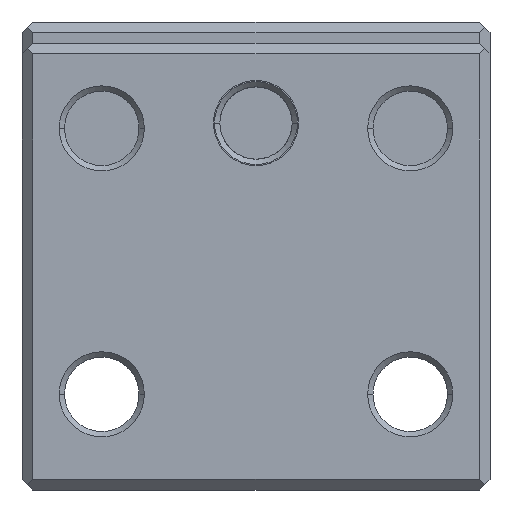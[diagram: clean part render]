
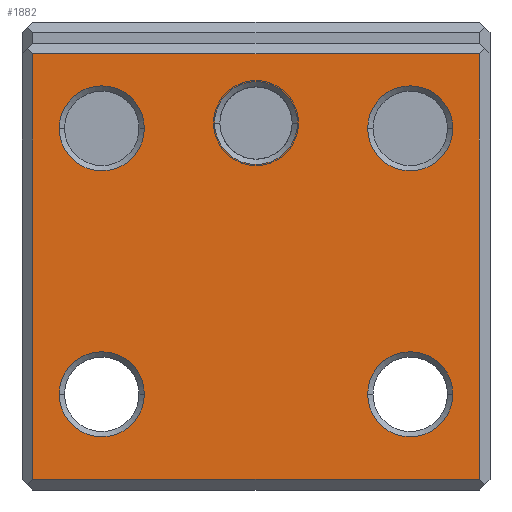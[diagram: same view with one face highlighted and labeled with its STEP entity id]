
A CAD part, front view. The second image highlights one B-rep face of the part: STEP entity #1882.
In plain terms, the highlighted planar face has unit normal (0, -1, 0).
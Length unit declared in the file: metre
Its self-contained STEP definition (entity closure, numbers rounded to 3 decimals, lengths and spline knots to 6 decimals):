
#1=CARTESIAN_POINT('',(-0.0145,0.,-0.012));
#2=DIRECTION('',(0.,1.,0.));
#3=DIRECTION('',(-1.,0.,0.));
#4=AXIS2_PLACEMENT_3D('',#1,#2,#3);
#6=CARTESIAN_POINT('',(-0.0145,0.,-0.012));
#7=DIRECTION('',(0.,1.,0.));
#8=DIRECTION('',(0.,0.,-1.));
#9=AXIS2_PLACEMENT_3D('',#6,#7,#8);
#11=CARTESIAN_POINT('',(-0.0145,0.,-0.012));
#12=DIRECTION('',(0.,1.,0.));
#13=DIRECTION('',(1.,0.,0.));
#14=AXIS2_PLACEMENT_3D('',#11,#12,#13);
#16=CARTESIAN_POINT('',(-0.0145,0.,-0.012));
#17=DIRECTION('',(0.,1.,0.));
#18=DIRECTION('',(0.,0.,1.));
#19=AXIS2_PLACEMENT_3D('',#16,#17,#18);
#21=CARTESIAN_POINT('',(-0.0145,0.,0.013));
#22=DIRECTION('',(0.,1.,0.));
#23=DIRECTION('',(1.,0.,0.));
#24=AXIS2_PLACEMENT_3D('',#21,#22,#23);
#26=CARTESIAN_POINT('',(-0.0145,0.,0.013));
#27=DIRECTION('',(0.,1.,0.));
#28=DIRECTION('',(0.,0.,1.));
#29=AXIS2_PLACEMENT_3D('',#26,#27,#28);
#31=CARTESIAN_POINT('',(-0.0145,0.,0.013));
#32=DIRECTION('',(0.,1.,0.));
#33=DIRECTION('',(-1.,0.,0.));
#34=AXIS2_PLACEMENT_3D('',#31,#32,#33);
#36=CARTESIAN_POINT('',(-0.0145,0.,0.013));
#37=DIRECTION('',(0.,1.,0.));
#38=DIRECTION('',(0.,0.,-1.));
#39=AXIS2_PLACEMENT_3D('',#36,#37,#38);
#41=CARTESIAN_POINT('',(0.0145,0.,-0.012));
#42=DIRECTION('',(0.,1.,0.));
#43=DIRECTION('',(-1.,0.,0.));
#44=AXIS2_PLACEMENT_3D('',#41,#42,#43);
#46=CARTESIAN_POINT('',(0.0145,0.,-0.012));
#47=DIRECTION('',(0.,1.,0.));
#48=DIRECTION('',(0.,0.,-1.));
#49=AXIS2_PLACEMENT_3D('',#46,#47,#48);
#51=CARTESIAN_POINT('',(0.0145,0.,-0.012));
#52=DIRECTION('',(0.,1.,0.));
#53=DIRECTION('',(1.,0.,0.));
#54=AXIS2_PLACEMENT_3D('',#51,#52,#53);
#56=CARTESIAN_POINT('',(0.0145,0.,-0.012));
#57=DIRECTION('',(0.,1.,0.));
#58=DIRECTION('',(0.,0.,1.));
#59=AXIS2_PLACEMENT_3D('',#56,#57,#58);
#61=CARTESIAN_POINT('',(0.0145,0.,0.013));
#62=DIRECTION('',(0.,1.,0.));
#63=DIRECTION('',(-1.,0.,0.));
#64=AXIS2_PLACEMENT_3D('',#61,#62,#63);
#66=CARTESIAN_POINT('',(0.0145,0.,0.013));
#67=DIRECTION('',(0.,1.,0.));
#68=DIRECTION('',(0.,0.,-1.));
#69=AXIS2_PLACEMENT_3D('',#66,#67,#68);
#71=CARTESIAN_POINT('',(0.0145,0.,0.013));
#72=DIRECTION('',(0.,1.,0.));
#73=DIRECTION('',(1.,0.,0.));
#74=AXIS2_PLACEMENT_3D('',#71,#72,#73);
#76=CARTESIAN_POINT('',(0.0145,0.,0.013));
#77=DIRECTION('',(0.,1.,0.));
#78=DIRECTION('',(0.,0.,1.));
#79=AXIS2_PLACEMENT_3D('',#76,#77,#78);
#81=CARTESIAN_POINT('',(0.,0.,0.0135));
#82=DIRECTION('',(0.,1.,0.));
#83=DIRECTION('',(-1.,0.,0.));
#84=AXIS2_PLACEMENT_3D('',#81,#82,#83);
#86=CARTESIAN_POINT('',(0.,0.,0.0135));
#87=DIRECTION('',(0.,1.,0.));
#88=DIRECTION('',(0.,0.,-1.));
#89=AXIS2_PLACEMENT_3D('',#86,#87,#88);
#91=CARTESIAN_POINT('',(0.,0.,0.0135));
#92=DIRECTION('',(0.,1.,0.));
#93=DIRECTION('',(1.,0.,0.));
#94=AXIS2_PLACEMENT_3D('',#91,#92,#93);
#96=CARTESIAN_POINT('',(0.,0.,0.0135));
#97=DIRECTION('',(0.,1.,0.));
#98=DIRECTION('',(0.,0.,1.));
#99=AXIS2_PLACEMENT_3D('',#96,#97,#98);
#1269=DIRECTION('',(1.,0.,0.));
#1270=VECTOR('',#1269,0.042);
#1271=CARTESIAN_POINT('',(-0.021,0.,0.02));
#1272=LINE('',#1271,#1270);
#1273=DIRECTION('',(0.,0.,-1.));
#1274=VECTOR('',#1273,0.04);
#1275=CARTESIAN_POINT('',(0.021,0.,0.02));
#1276=LINE('',#1275,#1274);
#1281=DIRECTION('',(-1.,0.,0.));
#1282=VECTOR('',#1281,0.042);
#1283=CARTESIAN_POINT('',(0.021,0.,-0.02));
#1284=LINE('',#1283,#1282);
#1305=DIRECTION('',(0.,0.,1.));
#1306=VECTOR('',#1305,0.04);
#1307=CARTESIAN_POINT('',(-0.021,0.,-0.02));
#1308=LINE('',#1307,#1306);
#1393=CARTESIAN_POINT('',(0.021,0.,0.02));
#1394=CARTESIAN_POINT('',(0.021,0.,-0.02));
#1395=VERTEX_POINT('',#1393);
#1396=VERTEX_POINT('',#1394);
#1397=CARTESIAN_POINT('',(-0.021,0.,-0.02));
#1398=VERTEX_POINT('',#1397);
#1399=CARTESIAN_POINT('',(-0.021,0.,0.02));
#1400=VERTEX_POINT('',#1399);
#1401=CARTESIAN_POINT('',(0.0039,0.,0.0135));
#1402=CARTESIAN_POINT('',(0.,0.,0.0096));
#1403=VERTEX_POINT('',#1401);
#1404=VERTEX_POINT('',#1402);
#1405=CARTESIAN_POINT('',(-0.0039,0.,0.0135));
#1406=VERTEX_POINT('',#1405);
#1407=CARTESIAN_POINT('',(0.,0.,0.0174));
#1408=VERTEX_POINT('',#1407);
#1409=CARTESIAN_POINT('',(0.0185,0.,0.013));
#1410=CARTESIAN_POINT('',(0.0145,0.,0.009));
#1411=VERTEX_POINT('',#1409);
#1412=VERTEX_POINT('',#1410);
#1413=CARTESIAN_POINT('',(0.0105,0.,0.013));
#1414=VERTEX_POINT('',#1413);
#1415=CARTESIAN_POINT('',(0.0145,0.,0.017));
#1416=VERTEX_POINT('',#1415);
#1417=CARTESIAN_POINT('',(0.0185,0.,-0.012));
#1418=CARTESIAN_POINT('',(0.0145,0.,-0.016));
#1419=VERTEX_POINT('',#1417);
#1420=VERTEX_POINT('',#1418);
#1421=CARTESIAN_POINT('',(0.0105,0.,-0.012));
#1422=VERTEX_POINT('',#1421);
#1423=CARTESIAN_POINT('',(0.0145,0.,-0.008));
#1424=VERTEX_POINT('',#1423);
#1425=CARTESIAN_POINT('',(-0.0185,0.,0.013));
#1426=CARTESIAN_POINT('',(-0.0145,0.,0.017));
#1427=VERTEX_POINT('',#1425);
#1428=VERTEX_POINT('',#1426);
#1429=CARTESIAN_POINT('',(-0.0105,0.,0.013));
#1430=VERTEX_POINT('',#1429);
#1431=CARTESIAN_POINT('',(-0.0145,0.,0.009));
#1432=VERTEX_POINT('',#1431);
#1433=CARTESIAN_POINT('',(-0.0105,0.,-0.012));
#1434=CARTESIAN_POINT('',(-0.0145,0.,-0.016));
#1435=VERTEX_POINT('',#1433);
#1436=VERTEX_POINT('',#1434);
#1437=CARTESIAN_POINT('',(-0.0185,0.,-0.012));
#1438=VERTEX_POINT('',#1437);
#1439=CARTESIAN_POINT('',(-0.0145,0.,-0.008));
#1440=VERTEX_POINT('',#1439);
#1817=CARTESIAN_POINT('',(0.,0.,0.));
#1818=DIRECTION('',(0.,1.,0.));
#1819=DIRECTION('',(1.,0.,0.));
#1820=AXIS2_PLACEMENT_3D('',#1817,#1818,#1819);
#1821=PLANE('',#1820);
#1823=ORIENTED_EDGE('',*,*,#1822,.T.);
#1825=ORIENTED_EDGE('',*,*,#1824,.T.);
#1827=ORIENTED_EDGE('',*,*,#1826,.T.);
#1829=ORIENTED_EDGE('',*,*,#1828,.T.);
#1830=EDGE_LOOP('',(#1823,#1825,#1827,#1829));
#1831=FACE_OUTER_BOUND('',#1830,.F.);
#1833=ORIENTED_EDGE('',*,*,#1832,.F.);
#1835=ORIENTED_EDGE('',*,*,#1834,.F.);
#1837=ORIENTED_EDGE('',*,*,#1836,.F.);
#1839=ORIENTED_EDGE('',*,*,#1838,.F.);
#1840=EDGE_LOOP('',(#1833,#1835,#1837,#1839));
#1841=FACE_BOUND('',#1840,.F.);
#1843=ORIENTED_EDGE('',*,*,#1842,.F.);
#1845=ORIENTED_EDGE('',*,*,#1844,.F.);
#1847=ORIENTED_EDGE('',*,*,#1846,.F.);
#1849=ORIENTED_EDGE('',*,*,#1848,.F.);
#1850=EDGE_LOOP('',(#1843,#1845,#1847,#1849));
#1851=FACE_BOUND('',#1850,.F.);
#1853=ORIENTED_EDGE('',*,*,#1852,.F.);
#1855=ORIENTED_EDGE('',*,*,#1854,.F.);
#1857=ORIENTED_EDGE('',*,*,#1856,.F.);
#1859=ORIENTED_EDGE('',*,*,#1858,.F.);
#1860=EDGE_LOOP('',(#1853,#1855,#1857,#1859));
#1861=FACE_BOUND('',#1860,.F.);
#1863=ORIENTED_EDGE('',*,*,#1862,.F.);
#1865=ORIENTED_EDGE('',*,*,#1864,.F.);
#1867=ORIENTED_EDGE('',*,*,#1866,.F.);
#1869=ORIENTED_EDGE('',*,*,#1868,.F.);
#1870=EDGE_LOOP('',(#1863,#1865,#1867,#1869));
#1871=FACE_BOUND('',#1870,.F.);
#1873=ORIENTED_EDGE('',*,*,#1872,.F.);
#1875=ORIENTED_EDGE('',*,*,#1874,.F.);
#1877=ORIENTED_EDGE('',*,*,#1876,.F.);
#1879=ORIENTED_EDGE('',*,*,#1878,.F.);
#1880=EDGE_LOOP('',(#1873,#1875,#1877,#1879));
#1881=FACE_BOUND('',#1880,.F.);
#1882=ADVANCED_FACE('',(#1831,#1841,#1851,#1861,#1871,#1881),#1821,.F.);
#5=CIRCLE('',#4,0.004);
#10=CIRCLE('',#9,0.004);
#15=CIRCLE('',#14,0.004);
#20=CIRCLE('',#19,0.004);
#25=CIRCLE('',#24,0.004);
#30=CIRCLE('',#29,0.004);
#35=CIRCLE('',#34,0.004);
#40=CIRCLE('',#39,0.004);
#45=CIRCLE('',#44,0.004);
#50=CIRCLE('',#49,0.004);
#55=CIRCLE('',#54,0.004);
#60=CIRCLE('',#59,0.004);
#65=CIRCLE('',#64,0.004);
#70=CIRCLE('',#69,0.004);
#75=CIRCLE('',#74,0.004);
#80=CIRCLE('',#79,0.004);
#85=CIRCLE('',#84,0.0039);
#90=CIRCLE('',#89,0.0039);
#95=CIRCLE('',#94,0.0039);
#100=CIRCLE('',#99,0.0039);
#1822=EDGE_CURVE('',#1400,#1395,#1272,.T.);
#1824=EDGE_CURVE('',#1395,#1396,#1276,.T.);
#1826=EDGE_CURVE('',#1396,#1398,#1284,.T.);
#1828=EDGE_CURVE('',#1398,#1400,#1308,.T.);
#1832=EDGE_CURVE('',#1430,#1432,#25,.T.);
#1834=EDGE_CURVE('',#1428,#1430,#30,.T.);
#1836=EDGE_CURVE('',#1427,#1428,#35,.T.);
#1838=EDGE_CURVE('',#1432,#1427,#40,.T.);
#1842=EDGE_CURVE('',#1422,#1424,#45,.T.);
#1844=EDGE_CURVE('',#1420,#1422,#50,.T.);
#1846=EDGE_CURVE('',#1419,#1420,#55,.T.);
#1848=EDGE_CURVE('',#1424,#1419,#60,.T.);
#1852=EDGE_CURVE('',#1414,#1416,#65,.T.);
#1854=EDGE_CURVE('',#1412,#1414,#70,.T.);
#1856=EDGE_CURVE('',#1411,#1412,#75,.T.);
#1858=EDGE_CURVE('',#1416,#1411,#80,.T.);
#1862=EDGE_CURVE('',#1406,#1408,#85,.T.);
#1864=EDGE_CURVE('',#1404,#1406,#90,.T.);
#1866=EDGE_CURVE('',#1403,#1404,#95,.T.);
#1868=EDGE_CURVE('',#1408,#1403,#100,.T.);
#1872=EDGE_CURVE('',#1438,#1440,#5,.T.);
#1874=EDGE_CURVE('',#1436,#1438,#10,.T.);
#1876=EDGE_CURVE('',#1435,#1436,#15,.T.);
#1878=EDGE_CURVE('',#1440,#1435,#20,.T.);
